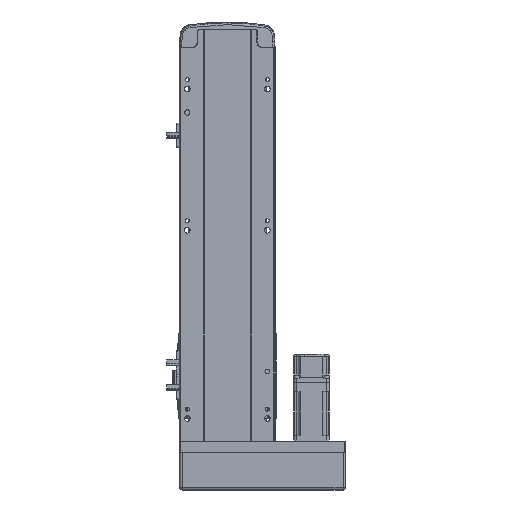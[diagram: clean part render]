
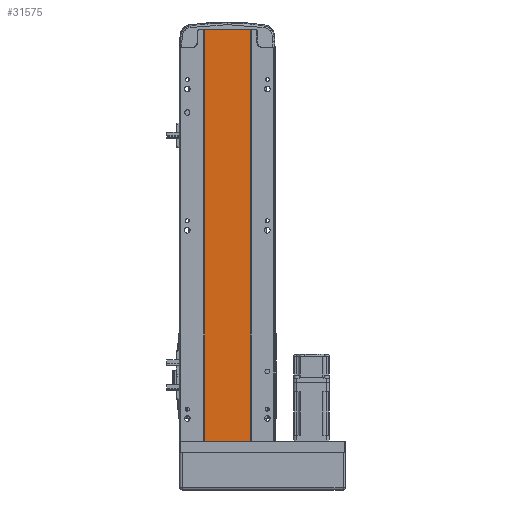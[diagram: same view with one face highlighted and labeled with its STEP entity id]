
A CAD part, front view. The second image highlights one B-rep face of the part: STEP entity #31575.
In plain terms, the highlighted planar face has unit normal (0, -1, 0).
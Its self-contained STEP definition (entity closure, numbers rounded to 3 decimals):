
#1885 = LINE ( 'NONE', #44582, #5264 ) ;
#3244 = ORIENTED_EDGE ( 'NONE', *, *, #14594, .T. ) ;
#5260 = CARTESIAN_POINT ( 'NONE',  ( 0., 2., 437. ) ) ;
#5264 = VECTOR ( 'NONE', #22711, 1000. ) ;
#9026 = LINE ( 'NONE', #16051, #17317 ) ;
#12226 = CARTESIAN_POINT ( 'NONE',  ( -24.5, 2., 437. ) ) ;
#12355 = CARTESIAN_POINT ( 'NONE',  ( 24.5, 2., 0. ) ) ;
#13260 = PLANE ( 'NONE',  #31720 ) ;
#13464 = DIRECTION ( 'NONE',  ( 0., 0., 1. ) ) ;
#14594 = EDGE_CURVE ( 'NONE', #26195, #46496, #1885, .T. ) ;
#16051 = CARTESIAN_POINT ( 'NONE',  ( -24.5, 2., 437. ) ) ;
#16182 = EDGE_CURVE ( 'NONE', #53303, #25091, #53040, .T. ) ;
#17214 = LINE ( 'NONE', #32237, #19275 ) ;
#17317 = VECTOR ( 'NONE', #34889, 1000. ) ;
#19275 = VECTOR ( 'NONE', #44593, 1000. ) ;
#21371 = ORIENTED_EDGE ( 'NONE', *, *, #30035, .F. ) ;
#22711 = DIRECTION ( 'NONE',  ( 1., 0., 0. ) ) ;
#25091 = VERTEX_POINT ( 'NONE', #25188 ) ;
#25188 = CARTESIAN_POINT ( 'NONE',  ( 24.5, 2., 437. ) ) ;
#26195 = VERTEX_POINT ( 'NONE', #32591 ) ;
#28293 = ORIENTED_EDGE ( 'NONE', *, *, #28942, .T. ) ;
#28942 = EDGE_CURVE ( 'NONE', #53303, #26195, #9026, .T. ) ;
#30035 = EDGE_CURVE ( 'NONE', #25091, #46496, #17214, .T. ) ;
#31575 = ADVANCED_FACE ( 'NONE', ( #38905 ), #13260, .F. ) ;
#31720 = AXIS2_PLACEMENT_3D ( 'NONE', #5260, #48204, #13464 ) ;
#32237 = CARTESIAN_POINT ( 'NONE',  ( 24.5, 2., 437. ) ) ;
#32591 = CARTESIAN_POINT ( 'NONE',  ( -24.5, 2., 0. ) ) ;
#34889 = DIRECTION ( 'NONE',  ( 0., 0., -1. ) ) ;
#38905 = FACE_OUTER_BOUND ( 'NONE', #49356, .T. ) ;
#40041 = ORIENTED_EDGE ( 'NONE', *, *, #16182, .F. ) ;
#44582 = CARTESIAN_POINT ( 'NONE',  ( 0., 2., 0. ) ) ;
#44593 = DIRECTION ( 'NONE',  ( 0., 0., -1. ) ) ;
#46496 = VERTEX_POINT ( 'NONE', #12355 ) ;
#46865 = VECTOR ( 'NONE', #54037, 1000. ) ;
#48204 = DIRECTION ( 'NONE',  ( 0., 1., 0. ) ) ;
#49356 = EDGE_LOOP ( 'NONE', ( #3244, #21371, #40041, #28293 ) ) ;
#49479 = CARTESIAN_POINT ( 'NONE',  ( -24.5, 2., 437. ) ) ;
#53040 = LINE ( 'NONE', #49479, #46865 ) ;
#53303 = VERTEX_POINT ( 'NONE', #12226 ) ;
#54037 = DIRECTION ( 'NONE',  ( 1., 0., 0. ) ) ;
